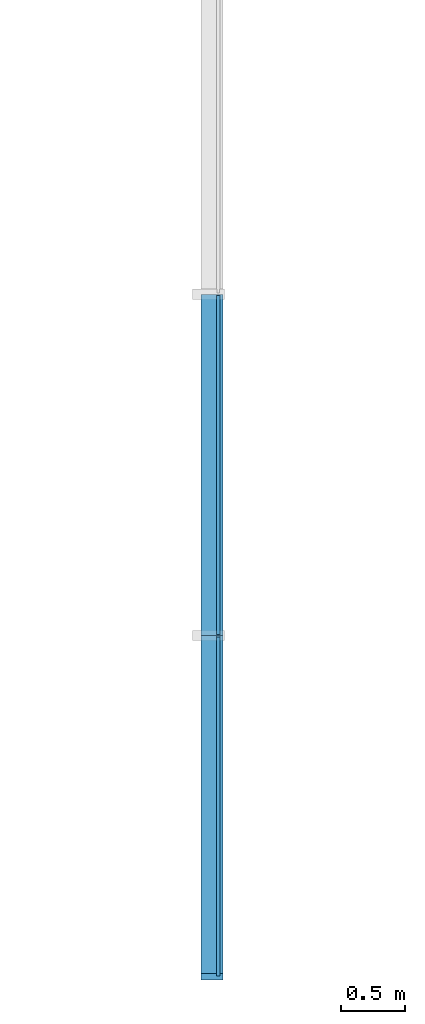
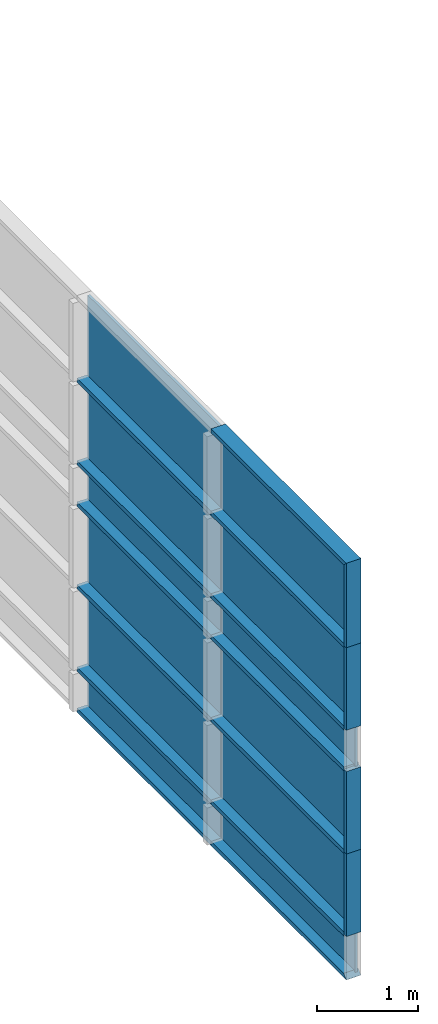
# One storey, part 2 of 19: 29 building element parts, 1 element without a shape of its own.
"""IFC4 building model written with IfcOpenShell, lengths in millimetres."""

from ifc_helpers import new_model, entity, si_unit, converted_unit, derived_unit, direction, frame, origin_with_axes, place, context, subcontext, project, spatial, triangles, material, element, aggregate, save


model = new_model("IFC4")

# Units and contexts
model_context = context("Model", 3, precision=1e-05, world=origin_with_axes(), true_north=direction((0.0, 1.0)))
body_context = subcontext(model_context, "Body", "Model", "MODEL_VIEW")
ifc_project = project(units=[si_unit("LENGTHUNIT", "METRE", prefix="MILLI"), si_unit("AREAUNIT", "SQUARE_METRE"), si_unit("VOLUMEUNIT", "CUBIC_METRE"), converted_unit("PLANEANGLEUNIT", "DEGREE", entity("IfcLengthMeasure", 0.017453), si_unit("PLANEANGLEUNIT", "RADIAN"), dimensions=[0, 0, 0, 0, 0, 0, 0]), si_unit("SOLIDANGLEUNIT", "STERADIAN"), si_unit("MASSUNIT", "GRAM"), si_unit("TIMEUNIT", "SECOND"), si_unit("THERMODYNAMICTEMPERATUREUNIT", "DEGREE_CELSIUS"), si_unit("LUMINOUSINTENSITYUNIT", "LUMEN"), si_unit("POWERUNIT", "WATT"), derived_unit("THERMALTRANSMITTANCEUNIT", [(si_unit("POWERUNIT", "WATT"), 1), (si_unit("THERMODYNAMICTEMPERATUREUNIT", "KELVIN"), -1), (si_unit("AREAUNIT", "SQUARE_METRE"), -1)])], contexts=[model_context])

# Site, building, storey
site_placement = place(None, origin_with_axes())
site = spatial("IfcSite", under=ifc_project, at=site_placement, Name="Default Site", CompositionType="ELEMENT")
building_placement = place(site_placement, origin_with_axes())
building = spatial("IfcBuilding", under=site, at=building_placement, Name="Default Building", CompositionType="ELEMENT")
storey_placement = place(building_placement, frame((0.0, 0.0, 3000.0), z_axis=(0.0, 0.0, 1.0), x_axis=(1.0, 0.0, 0.0)))
storey = spatial("IfcBuildingStorey", under=building, at=storey_placement, Name="EG - Story", CompositionType="ELEMENT", Elevation=3000.0)

# Curtain wall, building element parts
curtain_wall_placement = place(storey_placement, origin_with_axes())
curtain_wall = element("IfcCurtainWall", 1, at=curtain_wall_placement, inside=storey, Name="Fassade-013", PredefinedType="NOTDEFINED")
ifc_material_1 = material(Name="Normalglas")
building_element_part_1_placement = place(curtain_wall_placement, frame((51421.391327, -49908.012838, 0.0), z_axis=(0.0, 0.0, 1.0), x_axis=(1.0, 0.0, 0.0)))
building_element_part_1 = element("IfcBuildingElementPart", 2, at=building_element_part_1_placement, material=ifc_material_1, Name="Normalglas", PredefinedType="NOTDEFINED", context=body_context, shape_type="Tessellation", body=[
    triangles([(-14.999, 1321.25, 495.0), (-14.999, -1326.249, 495.0), (15.0, -1326.249, 495.0), (15.0, 1321.25, 495.0), (-14.999, 1321.25, 5.0), (-14.999, -1326.249, 5.0), (15.0, -1326.249, 5.0), (15.0, 1321.25, 5.0)], [[1, 2, 3], [1, 3, 4], [1, 5, 6], [1, 6, 2], [2, 6, 7], [2, 7, 3], [4, 3, 7], [4, 7, 8], [5, 1, 4], [5, 4, 8], [6, 5, 8], [6, 8, 7]], closed=False),
])
building_element_part_2_placement = place(curtain_wall_placement, frame((51421.391327, -49908.012838, 0.0), z_axis=(0.0, 0.0, 1.0), x_axis=(1.0, 0.0, 0.0)))
building_element_part_2 = element("IfcBuildingElementPart", 3, at=building_element_part_2_placement, material=ifc_material_1, Name="Normalglas", PredefinedType="NOTDEFINED", context=body_context, shape_type="Tessellation", body=[
    triangles([(-14.999, 3983.75, 495.0), (-14.999, 1341.25, 495.0), (15.0, 1341.25, 495.0), (15.0, 3983.75, 495.0), (-14.999, 3983.75, 5.0), (-14.999, 1341.25, 5.0), (15.0, 1341.25, 5.0), (15.0, 3983.75, 5.0)], [[1, 2, 3], [1, 3, 4], [1, 5, 6], [1, 6, 2], [2, 6, 7], [2, 7, 3], [4, 3, 7], [4, 7, 8], [5, 1, 4], [5, 4, 8], [6, 5, 8], [6, 8, 7]], closed=False),
])
building_element_part_3_placement = place(curtain_wall_placement, frame((51421.391327, -49908.012838, 0.0), z_axis=(0.0, 0.0, 1.0), x_axis=(1.0, 0.0, 0.0)))
building_element_part_3 = element("IfcBuildingElementPart", 4, at=building_element_part_3_placement, material=ifc_material_1, Name="Normalglas", PredefinedType="NOTDEFINED", context=body_context, shape_type="Tessellation", body=[
    triangles([(-14.999, 1321.25, 1495.0), (-14.999, -1326.249, 1495.0), (15.0, -1326.249, 1495.0), (15.0, 1321.25, 1495.0), (-14.999, 1321.25, 505.0), (-14.999, -1326.249, 505.0), (15.0, -1326.249, 505.0), (15.0, 1321.25, 505.0)], [[1, 2, 3], [1, 3, 4], [1, 5, 6], [1, 6, 2], [2, 6, 7], [2, 7, 3], [4, 3, 7], [4, 7, 8], [5, 1, 4], [5, 4, 8], [6, 5, 8], [6, 8, 7]], closed=False),
])
building_element_part_4_placement = place(curtain_wall_placement, frame((51421.391327, -49908.012838, 0.0), z_axis=(0.0, 0.0, 1.0), x_axis=(1.0, 0.0, 0.0)))
building_element_part_4 = element("IfcBuildingElementPart", 5, at=building_element_part_4_placement, material=ifc_material_1, Name="Normalglas", PredefinedType="NOTDEFINED", context=body_context, shape_type="Tessellation", body=[
    triangles([(-14.999, 3983.75, 1495.0), (-14.999, 1341.25, 1495.0), (15.0, 1341.25, 1495.0), (15.0, 3983.75, 1495.0), (-14.999, 3983.75, 505.0), (-14.999, 1341.25, 505.0), (15.0, 1341.25, 505.0), (15.0, 3983.75, 505.0)], [[1, 2, 3], [1, 3, 4], [1, 5, 6], [1, 6, 2], [2, 6, 7], [2, 7, 3], [4, 3, 7], [4, 7, 8], [5, 1, 4], [5, 4, 8], [6, 5, 8], [6, 8, 7]], closed=False),
])
building_element_part_5_placement = place(curtain_wall_placement, frame((51421.391327, -49908.012838, 0.0), z_axis=(0.0, 0.0, 1.0), x_axis=(1.0, 0.0, 0.0)))
building_element_part_5 = element("IfcBuildingElementPart", 6, at=building_element_part_5_placement, material=ifc_material_1, Name="Normalglas", PredefinedType="NOTDEFINED", context=body_context, shape_type="Tessellation", body=[
    triangles([(-14.999, 1321.25, 2495.0), (-14.999, -1326.249, 2495.0), (15.0, -1326.249, 2495.0), (15.0, 1321.25, 2495.0), (-14.999, 1321.25, 1505.0), (-14.999, -1326.249, 1505.0), (15.0, -1326.249, 1505.0), (15.0, 1321.25, 1505.0)], [[1, 2, 3], [1, 3, 4], [1, 5, 6], [1, 6, 2], [2, 6, 7], [2, 7, 3], [4, 3, 7], [4, 7, 8], [5, 1, 4], [5, 4, 8], [6, 5, 8], [6, 8, 7]], closed=False),
])
building_element_part_6_placement = place(curtain_wall_placement, frame((51421.391327, -49908.012838, 0.0), z_axis=(0.0, 0.0, 1.0), x_axis=(1.0, 0.0, 0.0)))
building_element_part_6 = element("IfcBuildingElementPart", 7, at=building_element_part_6_placement, material=ifc_material_1, Name="Normalglas", PredefinedType="NOTDEFINED", context=body_context, shape_type="Tessellation", body=[
    triangles([(-14.999, 3983.75, 2495.0), (-14.999, 1341.25, 2495.0), (15.0, 1341.25, 2495.0), (15.0, 3983.75, 2495.0), (-14.999, 3983.75, 1505.0), (-14.999, 1341.25, 1505.0), (15.0, 1341.25, 1505.0), (15.0, 3983.75, 1505.0)], [[1, 2, 3], [1, 3, 4], [1, 5, 6], [1, 6, 2], [2, 6, 7], [2, 7, 3], [4, 3, 7], [4, 7, 8], [5, 1, 4], [5, 4, 8], [6, 5, 8], [6, 8, 7]], closed=False),
])
building_element_part_7_placement = place(curtain_wall_placement, frame((51421.391327, -49908.012838, 0.0), z_axis=(0.0, 0.0, 1.0), x_axis=(1.0, 0.0, 0.0)))
building_element_part_7 = element("IfcBuildingElementPart", 8, at=building_element_part_7_placement, material=ifc_material_1, Name="Normalglas", PredefinedType="NOTDEFINED", context=body_context, shape_type="Tessellation", body=[
    triangles([(-14.999, 1321.25, 2995.0), (-14.999, -1326.249, 2995.0), (15.0, -1326.249, 2995.0), (15.0, 1321.25, 2995.0), (-14.999, 1321.25, 2505.0), (-14.999, -1326.249, 2505.0), (15.0, -1326.249, 2505.0), (15.0, 1321.25, 2505.0)], [[1, 2, 3], [1, 3, 4], [1, 5, 6], [1, 6, 2], [2, 6, 7], [2, 7, 3], [4, 3, 7], [4, 7, 8], [5, 1, 4], [5, 4, 8], [6, 5, 8], [6, 8, 7]], closed=False),
])
building_element_part_8_placement = place(curtain_wall_placement, frame((51421.391327, -49908.012838, 0.0), z_axis=(0.0, 0.0, 1.0), x_axis=(1.0, 0.0, 0.0)))
building_element_part_8 = element("IfcBuildingElementPart", 9, at=building_element_part_8_placement, material=ifc_material_1, Name="Normalglas", PredefinedType="NOTDEFINED", context=body_context, shape_type="Tessellation", body=[
    triangles([(-14.999, 3983.75, 2995.0), (-14.999, 1341.25, 2995.0), (15.0, 1341.25, 2995.0), (15.0, 3983.75, 2995.0), (-14.999, 3983.75, 2505.0), (-14.999, 1341.25, 2505.0), (15.0, 1341.25, 2505.0), (15.0, 3983.75, 2505.0)], [[1, 2, 3], [1, 3, 4], [1, 5, 6], [1, 6, 2], [2, 6, 7], [2, 7, 3], [4, 3, 7], [4, 7, 8], [5, 1, 4], [5, 4, 8], [6, 5, 8], [6, 8, 7]], closed=False),
])
building_element_part_9_placement = place(curtain_wall_placement, frame((51421.391327, -49908.012838, 0.0), z_axis=(0.0, 0.0, 1.0), x_axis=(1.0, 0.0, 0.0)))
building_element_part_9 = element("IfcBuildingElementPart", 10, at=building_element_part_9_placement, material=ifc_material_1, Name="Normalglas", PredefinedType="NOTDEFINED", context=body_context, shape_type="Tessellation", body=[
    triangles([(-14.999, 1321.25, 3995.0), (-14.999, -1326.249, 3995.0), (15.0, -1326.249, 3995.0), (15.0, 1321.25, 3995.0), (-14.999, 1321.25, 3005.0), (-14.999, -1326.249, 3005.0), (15.0, -1326.249, 3005.0), (15.0, 1321.25, 3005.0)], [[1, 2, 3], [1, 3, 4], [1, 5, 6], [1, 6, 2], [2, 6, 7], [2, 7, 3], [4, 3, 7], [4, 7, 8], [5, 1, 4], [5, 4, 8], [6, 5, 8], [6, 8, 7]], closed=False),
])
building_element_part_10_placement = place(curtain_wall_placement, frame((51421.391327, -49908.012838, 0.0), z_axis=(0.0, 0.0, 1.0), x_axis=(1.0, 0.0, 0.0)))
building_element_part_10 = element("IfcBuildingElementPart", 11, at=building_element_part_10_placement, material=ifc_material_1, Name="Normalglas", PredefinedType="NOTDEFINED", context=body_context, shape_type="Tessellation", body=[
    triangles([(-14.999, 3983.75, 3995.0), (-14.999, 1341.25, 3995.0), (15.0, 1341.25, 3995.0), (15.0, 3983.75, 3995.0), (-14.999, 3983.75, 3005.0), (-14.999, 1341.25, 3005.0), (15.0, 1341.25, 3005.0), (15.0, 3983.75, 3005.0)], [[1, 2, 3], [1, 3, 4], [1, 5, 6], [1, 6, 2], [2, 6, 7], [2, 7, 3], [4, 3, 7], [4, 7, 8], [5, 1, 4], [5, 4, 8], [6, 5, 8], [6, 8, 7]], closed=False),
])
building_element_part_11_placement = place(curtain_wall_placement, frame((51421.391327, -49908.012838, 0.0), z_axis=(0.0, 0.0, 1.0), x_axis=(1.0, 0.0, 0.0)))
building_element_part_11 = element("IfcBuildingElementPart", 12, at=building_element_part_11_placement, material=ifc_material_1, Name="Normalglas", PredefinedType="NOTDEFINED", context=body_context, shape_type="Tessellation", body=[
    triangles([(-14.999, 1321.25, 4995.0), (-14.999, -1326.249, 4995.0), (15.0, -1326.249, 4995.0), (15.0, 1321.25, 4995.0), (-14.999, 1321.25, 4005.0), (-14.999, -1326.249, 4005.0), (15.0, -1326.249, 4005.0), (15.0, 1321.25, 4005.0)], [[1, 2, 3], [1, 3, 4], [1, 5, 6], [1, 6, 2], [2, 6, 7], [2, 7, 3], [4, 3, 7], [4, 7, 8], [5, 1, 4], [5, 4, 8], [6, 5, 8], [6, 8, 7]], closed=False),
])
building_element_part_12_placement = place(curtain_wall_placement, frame((51421.391327, -49908.012838, 0.0), z_axis=(0.0, 0.0, 1.0), x_axis=(1.0, 0.0, 0.0)))
building_element_part_12 = element("IfcBuildingElementPart", 13, at=building_element_part_12_placement, material=ifc_material_1, Name="Normalglas", PredefinedType="NOTDEFINED", context=body_context, shape_type="Tessellation", body=[
    triangles([(-14.999, 3983.75, 4995.0), (-14.999, 1341.25, 4995.0), (15.0, 1341.25, 4995.0), (15.0, 3983.75, 4995.0), (-14.999, 3983.75, 4005.0), (-14.999, 1341.25, 4005.0), (15.0, 1341.25, 4005.0), (15.0, 3983.75, 4005.0)], [[1, 2, 3], [1, 3, 4], [1, 5, 6], [1, 6, 2], [2, 6, 7], [2, 7, 3], [4, 3, 7], [4, 7, 8], [5, 1, 4], [5, 4, 8], [6, 5, 8], [6, 8, 7]], closed=False),
])
ifc_material_2 = material(Name="Blech")
building_element_part_13_placement = place(curtain_wall_placement, frame((51421.391327, -49908.012838, 0.0), z_axis=(0.0, 0.0, 1.0), x_axis=(1.0, 0.0, 0.0)))
building_element_part_13 = element("IfcBuildingElementPart", 14, at=building_element_part_13_placement, material=ifc_material_2, Name="Blech", PredefinedType="NOTDEFINED", context=body_context, shape_type="Tessellation", body=[
    triangles([(15.0, 1331.25, 5.0), (-14.999, 1331.25, 5.0), (-132.999, 1331.25, -24.999), (35.0, 1331.25, -24.999), (35.0, 1331.25, 25.0), (15.0, 1331.25, 25.0), (-132.999, 1331.25, 25.0), (-14.999, 1331.25, 25.0), (-14.999, -1326.249, 5.0), (15.0, -1326.249, 5.0), (15.0, -1306.249, 25.0), (35.0, -1306.249, 25.0), (35.0, -1356.249, -24.999), (-132.999, -1356.249, -24.999), (-132.999, -1306.249, 25.0), (-14.999, -1306.249, 25.0)], [[1, 2, 3], [1, 3, 4], [1, 4, 5], [1, 5, 6], [7, 3, 2], [7, 2, 8], [1, 2, 9], [1, 9, 10], [11, 6, 1], [11, 1, 10], [6, 11, 12], [6, 12, 5], [4, 5, 12], [4, 12, 13], [3, 4, 13], [3, 13, 14], [7, 3, 14], [7, 14, 15], [16, 8, 7], [16, 7, 15], [2, 8, 16], [2, 16, 9], [16, 15, 9], [9, 15, 14], [9, 14, 10], [10, 14, 13], [10, 13, 12], [10, 12, 11]], closed=False),
])
building_element_part_14_placement = place(curtain_wall_placement, frame((51421.391327, -49908.012838, 0.0), z_axis=(0.0, 0.0, 1.0), x_axis=(1.0, 0.0, 0.0)))
building_element_part_14 = element("IfcBuildingElementPart", 15, at=building_element_part_14_placement, material=ifc_material_2, Name="Blech", PredefinedType="NOTDEFINED", context=body_context, shape_type="Tessellation", body=[
    triangles([(15.0, 3993.75, 5.0), (-14.999, 3993.75, 5.0), (-132.999, 3993.75, -24.999), (35.0, 3993.75, -24.999), (35.0, 3993.75, 25.0), (15.0, 3993.75, 25.0), (-132.999, 3993.75, 25.0), (-14.999, 3993.75, 25.0), (-14.999, 1331.25, 5.0), (15.0, 1331.25, 5.0), (15.0, 1331.25, 25.0), (35.0, 1331.25, 25.0), (35.0, 1331.25, -24.999), (-132.999, 1331.25, -24.999), (-132.999, 1331.25, 25.0), (-14.999, 1331.25, 25.0)], [[1, 2, 3], [1, 3, 4], [1, 4, 5], [1, 5, 6], [7, 3, 2], [7, 2, 8], [1, 2, 9], [1, 9, 10], [11, 6, 1], [11, 1, 10], [6, 11, 12], [6, 12, 5], [13, 4, 5], [13, 5, 12], [14, 3, 4], [14, 4, 13], [15, 7, 3], [15, 3, 14], [16, 8, 7], [16, 7, 15], [2, 8, 16], [2, 16, 9], [16, 15, 9], [9, 15, 14], [9, 14, 10], [10, 14, 13], [10, 13, 12], [10, 12, 11]], closed=False),
])
building_element_part_15_placement = place(curtain_wall_placement, frame((51421.391327, -49908.012838, 0.0), z_axis=(0.0, 0.0, 1.0), x_axis=(1.0, 0.0, 0.0)))
building_element_part_15 = element("IfcBuildingElementPart", 16, at=building_element_part_15_placement, material=ifc_material_2, Name="Blech", PredefinedType="NOTDEFINED", context=body_context, shape_type="Tessellation", body=[
    triangles([(15.0, 1331.25, 525.0), (35.0, 1331.25, 525.0), (15.0, 1331.25, 505.0), (15.0, 1331.25, 495.0), (-14.999, 1331.25, 505.0), (-132.999, 1331.25, 525.0), (-14.999, 1331.25, 525.0), (35.0, 1331.25, 475.0), (15.0, 1331.25, 475.0), (-14.999, 1331.25, 495.0), (-14.999, 1331.25, 475.0), (-132.999, 1331.25, 475.0), (-14.999, -1306.249, 495.0), (-14.999, -1306.249, 475.0), (-132.999, -1306.249, 475.0), (-132.999, -1306.249, 525.0), (-14.999, -1306.249, 525.0), (-14.999, -1306.249, 505.0), (15.0, -1306.249, 505.0), (15.0, -1306.249, 525.0), (35.0, -1306.249, 525.0), (35.0, -1306.249, 475.0), (15.0, -1306.249, 475.0), (15.0, -1306.249, 495.0)], [[1, 2, 3], [3, 2, 4], [3, 4, 5], [5, 4, 6], [5, 6, 7], [8, 9, 4], [8, 4, 2], [6, 4, 10], [6, 10, 11], [6, 11, 12], [11, 10, 13], [11, 13, 14], [11, 14, 15], [11, 15, 12], [12, 15, 16], [12, 16, 6], [7, 6, 16], [7, 16, 17], [7, 17, 18], [7, 18, 5], [5, 18, 19], [5, 19, 3], [1, 3, 19], [1, 19, 20], [20, 21, 2], [20, 2, 1], [2, 21, 22], [2, 22, 8], [23, 9, 8], [23, 8, 22], [4, 9, 23], [4, 23, 24], [10, 4, 24], [10, 24, 13], [17, 16, 18], [18, 16, 13], [18, 13, 19], [19, 13, 24], [19, 24, 21], [21, 24, 23], [21, 23, 22], [15, 14, 13], [15, 13, 16], [19, 21, 20]], closed=False),
])
building_element_part_16_placement = place(curtain_wall_placement, frame((51421.391327, -49908.012838, 0.0), z_axis=(0.0, 0.0, 1.0), x_axis=(1.0, 0.0, 0.0)))
building_element_part_16 = element("IfcBuildingElementPart", 17, at=building_element_part_16_placement, material=ifc_material_2, Name="Blech", PredefinedType="NOTDEFINED", context=body_context, shape_type="Tessellation", body=[
    triangles([(35.0, -1356.249, 1500.0), (35.0, -1306.249, 1500.0), (15.0, -1306.249, 1500.0), (15.0, -1326.249, 1500.0), (-14.999, -1326.249, 1500.0), (-132.999, -1306.249, 1500.0), (-132.999, -1356.249, 1500.0), (-14.999, -1306.249, 1500.0), (-14.999, -1326.249, 500.0), (-14.999, -1306.249, 500.0), (-132.999, -1306.249, 500.0), (-132.999, -1356.249, 500.0), (35.0, -1356.249, 500.0), (35.0, -1306.249, 500.0), (15.0, -1306.249, 500.0), (15.0, -1326.249, 500.0)], [[1, 2, 3], [1, 3, 4], [1, 4, 5], [1, 5, 6], [1, 6, 7], [8, 6, 5], [5, 9, 10], [5, 10, 8], [10, 11, 6], [10, 6, 8], [11, 12, 7], [11, 7, 6], [12, 13, 1], [12, 1, 7], [13, 14, 2], [13, 2, 1], [3, 2, 14], [3, 14, 15], [15, 16, 4], [15, 4, 3], [4, 16, 9], [4, 9, 5], [15, 16, 13], [13, 16, 9], [13, 9, 11], [11, 9, 10], [13, 11, 12], [15, 13, 14]], closed=False),
])
building_element_part_17_placement = place(curtain_wall_placement, frame((51421.391327, -49908.012838, 0.0), z_axis=(0.0, 0.0, 1.0), x_axis=(1.0, 0.0, 0.0)))
building_element_part_17 = element("IfcBuildingElementPart", 18, at=building_element_part_17_placement, material=ifc_material_2, Name="Blech", PredefinedType="NOTDEFINED", context=body_context, shape_type="Tessellation", body=[
    triangles([(15.0, 3993.75, 525.0), (35.0, 3993.75, 525.0), (15.0, 3993.75, 505.0), (15.0, 3993.75, 495.0), (-14.999, 3993.75, 505.0), (-132.999, 3993.75, 525.0), (-14.999, 3993.75, 525.0), (35.0, 3993.75, 475.0), (15.0, 3993.75, 475.0), (-14.999, 3993.75, 495.0), (-14.999, 3993.75, 475.0), (-132.999, 3993.75, 475.0), (-14.999, 1331.25, 495.0), (-14.999, 1331.25, 475.0), (-132.999, 1331.25, 475.0), (-132.999, 1331.25, 525.0), (-14.999, 1331.25, 525.0), (-14.999, 1331.25, 505.0), (15.0, 1331.25, 505.0), (15.0, 1331.25, 525.0), (35.0, 1331.25, 525.0), (35.0, 1331.25, 475.0), (15.0, 1331.25, 475.0), (15.0, 1331.25, 495.0)], [[1, 2, 3], [3, 2, 4], [3, 4, 5], [5, 4, 6], [5, 6, 7], [8, 9, 4], [8, 4, 2], [6, 4, 10], [6, 10, 11], [6, 11, 12], [11, 10, 13], [11, 13, 14], [11, 14, 15], [11, 15, 12], [6, 12, 15], [6, 15, 16], [7, 6, 16], [7, 16, 17], [7, 17, 18], [7, 18, 5], [5, 18, 19], [5, 19, 3], [1, 3, 19], [1, 19, 20], [20, 21, 2], [20, 2, 1], [8, 2, 21], [8, 21, 22], [23, 9, 8], [23, 8, 22], [4, 9, 23], [4, 23, 24], [10, 4, 24], [10, 24, 13], [17, 16, 18], [18, 16, 13], [18, 13, 19], [19, 13, 24], [19, 24, 21], [21, 24, 23], [21, 23, 22], [15, 14, 13], [15, 13, 16], [19, 21, 20]], closed=False),
])
building_element_part_18_placement = place(curtain_wall_placement, frame((51421.391327, -49908.012838, 0.0), z_axis=(0.0, 0.0, 1.0), x_axis=(1.0, 0.0, 0.0)))
building_element_part_18 = element("IfcBuildingElementPart", 19, at=building_element_part_18_placement, material=ifc_material_2, Name="Blech", PredefinedType="NOTDEFINED", context=body_context, shape_type="Tessellation", body=[
    triangles([(15.0, 1331.25, 1525.0), (35.0, 1331.25, 1525.0), (15.0, 1331.25, 1505.0), (15.0, 1331.25, 1495.0), (-14.999, 1331.25, 1505.0), (-132.999, 1331.25, 1525.0), (-14.999, 1331.25, 1525.0), (35.0, 1331.25, 1475.0), (15.0, 1331.25, 1475.0), (-14.999, 1331.25, 1495.0), (-14.999, 1331.25, 1475.0), (-132.999, 1331.25, 1475.0), (-14.999, -1306.249, 1495.0), (-14.999, -1306.249, 1475.0), (-132.999, -1306.249, 1475.0), (-132.999, -1306.249, 1525.0), (-14.999, -1306.249, 1525.0), (-14.999, -1306.249, 1505.0), (15.0, -1306.249, 1505.0), (15.0, -1306.249, 1525.0), (35.0, -1306.249, 1525.0), (35.0, -1306.249, 1475.0), (15.0, -1306.249, 1475.0), (15.0, -1306.249, 1495.0)], [[1, 2, 3], [3, 2, 4], [3, 4, 5], [5, 4, 6], [5, 6, 7], [8, 9, 4], [8, 4, 2], [6, 4, 10], [6, 10, 11], [6, 11, 12], [11, 10, 13], [11, 13, 14], [11, 14, 15], [11, 15, 12], [12, 15, 16], [12, 16, 6], [7, 6, 16], [7, 16, 17], [7, 17, 18], [7, 18, 5], [5, 18, 19], [5, 19, 3], [1, 3, 19], [1, 19, 20], [20, 21, 2], [20, 2, 1], [2, 21, 22], [2, 22, 8], [23, 9, 8], [23, 8, 22], [4, 9, 23], [4, 23, 24], [10, 4, 24], [10, 24, 13], [17, 16, 18], [18, 16, 13], [18, 13, 19], [19, 13, 24], [19, 24, 21], [21, 24, 23], [21, 23, 22], [15, 14, 13], [15, 13, 16], [19, 21, 20]], closed=False),
])
building_element_part_19_placement = place(curtain_wall_placement, frame((51421.391327, -49908.012838, 0.0), z_axis=(0.0, 0.0, 1.0), x_axis=(1.0, 0.0, 0.0)))
building_element_part_19 = element("IfcBuildingElementPart", 20, at=building_element_part_19_placement, material=ifc_material_2, Name="Blech", PredefinedType="NOTDEFINED", context=body_context, shape_type="Tessellation", body=[
    triangles([(35.0, -1356.249, 2500.0), (35.0, -1306.249, 2500.0), (15.0, -1306.249, 2500.0), (15.0, -1326.249, 2500.0), (-14.999, -1326.249, 2500.0), (-132.999, -1306.249, 2500.0), (-132.999, -1356.249, 2500.0), (-14.999, -1306.249, 2500.0), (-14.999, -1326.249, 1500.0), (-14.999, -1306.249, 1500.0), (-132.999, -1306.249, 1500.0), (-132.999, -1356.249, 1500.0), (35.0, -1356.249, 1500.0), (35.0, -1306.249, 1500.0), (15.0, -1306.249, 1500.0), (15.0, -1326.249, 1500.0)], [[1, 2, 3], [1, 3, 4], [1, 4, 5], [1, 5, 6], [1, 6, 7], [8, 6, 5], [5, 9, 10], [5, 10, 8], [10, 11, 6], [10, 6, 8], [11, 12, 7], [11, 7, 6], [12, 13, 1], [12, 1, 7], [13, 14, 2], [13, 2, 1], [3, 2, 14], [3, 14, 15], [15, 16, 4], [15, 4, 3], [4, 16, 9], [4, 9, 5], [15, 16, 13], [13, 16, 9], [13, 9, 11], [11, 9, 10], [13, 11, 12], [15, 13, 14]], closed=False),
])
building_element_part_20_placement = place(curtain_wall_placement, frame((51421.391327, -49908.012838, 0.0), z_axis=(0.0, 0.0, 1.0), x_axis=(1.0, 0.0, 0.0)))
building_element_part_20 = element("IfcBuildingElementPart", 21, at=building_element_part_20_placement, material=ifc_material_2, Name="Blech", PredefinedType="NOTDEFINED", context=body_context, shape_type="Tessellation", body=[
    triangles([(15.0, 3993.75, 1525.0), (35.0, 3993.75, 1525.0), (15.0, 3993.75, 1505.0), (15.0, 3993.75, 1495.0), (-14.999, 3993.75, 1505.0), (-132.999, 3993.75, 1525.0), (-14.999, 3993.75, 1525.0), (35.0, 3993.75, 1475.0), (15.0, 3993.75, 1475.0), (-14.999, 3993.75, 1495.0), (-14.999, 3993.75, 1475.0), (-132.999, 3993.75, 1475.0), (-14.999, 1331.25, 1495.0), (-14.999, 1331.25, 1475.0), (-132.999, 1331.25, 1475.0), (-132.999, 1331.25, 1525.0), (-14.999, 1331.25, 1525.0), (-14.999, 1331.25, 1505.0), (15.0, 1331.25, 1505.0), (15.0, 1331.25, 1525.0), (35.0, 1331.25, 1525.0), (35.0, 1331.25, 1475.0), (15.0, 1331.25, 1475.0), (15.0, 1331.25, 1495.0)], [[1, 2, 3], [3, 2, 4], [3, 4, 5], [5, 4, 6], [5, 6, 7], [8, 9, 4], [8, 4, 2], [6, 4, 10], [6, 10, 11], [6, 11, 12], [11, 10, 13], [11, 13, 14], [11, 14, 15], [11, 15, 12], [6, 12, 15], [6, 15, 16], [7, 6, 16], [7, 16, 17], [7, 17, 18], [7, 18, 5], [5, 18, 19], [5, 19, 3], [1, 3, 19], [1, 19, 20], [20, 21, 2], [20, 2, 1], [8, 2, 21], [8, 21, 22], [23, 9, 8], [23, 8, 22], [4, 9, 23], [4, 23, 24], [10, 4, 24], [10, 24, 13], [17, 16, 18], [18, 16, 13], [18, 13, 19], [19, 13, 24], [19, 24, 21], [21, 24, 23], [21, 23, 22], [15, 14, 13], [15, 13, 16], [19, 21, 20]], closed=False),
])
building_element_part_21_placement = place(curtain_wall_placement, frame((51421.391327, -49908.012838, 0.0), z_axis=(0.0, 0.0, 1.0), x_axis=(1.0, 0.0, 0.0)))
building_element_part_21 = element("IfcBuildingElementPart", 22, at=building_element_part_21_placement, material=ifc_material_2, Name="Blech", PredefinedType="NOTDEFINED", context=body_context, shape_type="Tessellation", body=[
    triangles([(15.0, 1331.25, 2525.0), (35.0, 1331.25, 2525.0), (15.0, 1331.25, 2505.0), (15.0, 1331.25, 2495.0), (-14.999, 1331.25, 2505.0), (-132.999, 1331.25, 2525.0), (-14.999, 1331.25, 2525.0), (35.0, 1331.25, 2475.0), (15.0, 1331.25, 2475.0), (-14.999, 1331.25, 2495.0), (-14.999, 1331.25, 2475.0), (-132.999, 1331.25, 2475.0), (-14.999, -1306.249, 2495.0), (-14.999, -1306.249, 2475.0), (-132.999, -1306.249, 2475.0), (-132.999, -1306.249, 2525.0), (-14.999, -1306.249, 2525.0), (-14.999, -1306.249, 2505.0), (15.0, -1306.249, 2505.0), (15.0, -1306.249, 2525.0), (35.0, -1306.249, 2525.0), (35.0, -1306.249, 2475.0), (15.0, -1306.249, 2475.0), (15.0, -1306.249, 2495.0)], [[1, 2, 3], [3, 2, 4], [3, 4, 5], [5, 4, 6], [5, 6, 7], [8, 9, 4], [8, 4, 2], [6, 4, 10], [6, 10, 11], [6, 11, 12], [11, 10, 13], [11, 13, 14], [11, 14, 15], [11, 15, 12], [12, 15, 16], [12, 16, 6], [7, 6, 16], [7, 16, 17], [7, 17, 18], [7, 18, 5], [5, 18, 19], [5, 19, 3], [1, 3, 19], [1, 19, 20], [20, 21, 2], [20, 2, 1], [2, 21, 22], [2, 22, 8], [23, 9, 8], [23, 8, 22], [4, 9, 23], [4, 23, 24], [10, 4, 24], [10, 24, 13], [17, 16, 18], [18, 16, 13], [18, 13, 19], [19, 13, 24], [19, 24, 21], [21, 24, 23], [21, 23, 22], [15, 14, 13], [15, 13, 16], [19, 21, 20]], closed=False),
])
building_element_part_22_placement = place(curtain_wall_placement, frame((51421.391327, -49908.012838, 0.0), z_axis=(0.0, 0.0, 1.0), x_axis=(1.0, 0.0, 0.0)))
building_element_part_22 = element("IfcBuildingElementPart", 23, at=building_element_part_22_placement, material=ifc_material_2, Name="Blech", PredefinedType="NOTDEFINED", context=body_context, shape_type="Tessellation", body=[
    triangles([(15.0, 3993.75, 2525.0), (35.0, 3993.75, 2525.0), (15.0, 3993.75, 2505.0), (15.0, 3993.75, 2495.0), (-14.999, 3993.75, 2505.0), (-132.999, 3993.75, 2525.0), (-14.999, 3993.75, 2525.0), (35.0, 3993.75, 2475.0), (15.0, 3993.75, 2475.0), (-14.999, 3993.75, 2495.0), (-14.999, 3993.75, 2475.0), (-132.999, 3993.75, 2475.0), (-14.999, 1331.25, 2495.0), (-14.999, 1331.25, 2475.0), (-132.999, 1331.25, 2475.0), (-132.999, 1331.25, 2525.0), (-14.999, 1331.25, 2525.0), (-14.999, 1331.25, 2505.0), (15.0, 1331.25, 2505.0), (15.0, 1331.25, 2525.0), (35.0, 1331.25, 2525.0), (35.0, 1331.25, 2475.0), (15.0, 1331.25, 2475.0), (15.0, 1331.25, 2495.0)], [[1, 2, 3], [3, 2, 4], [3, 4, 5], [5, 4, 6], [5, 6, 7], [8, 9, 4], [8, 4, 2], [6, 4, 10], [6, 10, 11], [6, 11, 12], [11, 10, 13], [11, 13, 14], [11, 14, 15], [11, 15, 12], [6, 12, 15], [6, 15, 16], [7, 6, 16], [7, 16, 17], [7, 17, 18], [7, 18, 5], [5, 18, 19], [5, 19, 3], [1, 3, 19], [1, 19, 20], [20, 21, 2], [20, 2, 1], [8, 2, 21], [8, 21, 22], [23, 9, 8], [23, 8, 22], [4, 9, 23], [4, 23, 24], [10, 4, 24], [10, 24, 13], [17, 16, 18], [18, 16, 13], [18, 13, 19], [19, 13, 24], [19, 24, 21], [21, 24, 23], [21, 23, 22], [15, 14, 13], [15, 13, 16], [19, 21, 20]], closed=False),
])
building_element_part_23_placement = place(curtain_wall_placement, frame((51421.391327, -49908.012838, 0.0), z_axis=(0.0, 0.0, 1.0), x_axis=(1.0, 0.0, 0.0)))
building_element_part_23 = element("IfcBuildingElementPart", 24, at=building_element_part_23_placement, material=ifc_material_2, Name="Blech", PredefinedType="NOTDEFINED", context=body_context, shape_type="Tessellation", body=[
    triangles([(15.0, 1331.25, 3025.0), (35.0, 1331.25, 3025.0), (15.0, 1331.25, 3005.0), (15.0, 1331.25, 2995.0), (-14.999, 1331.25, 3005.0), (-132.999, 1331.25, 3025.0), (-14.999, 1331.25, 3025.0), (35.0, 1331.25, 2975.0), (15.0, 1331.25, 2975.0), (-14.999, 1331.25, 2995.0), (-14.999, 1331.25, 2975.0), (-132.999, 1331.25, 2975.0), (-14.999, -1306.249, 2995.0), (-14.999, -1306.249, 2975.0), (-132.999, -1306.249, 2975.0), (-132.999, -1306.249, 3025.0), (-14.999, -1306.249, 3025.0), (-14.999, -1306.249, 3005.0), (15.0, -1306.249, 3005.0), (15.0, -1306.249, 3025.0), (35.0, -1306.249, 3025.0), (35.0, -1306.249, 2975.0), (15.0, -1306.249, 2975.0), (15.0, -1306.249, 2995.0)], [[1, 2, 3], [3, 2, 4], [3, 4, 5], [5, 4, 6], [5, 6, 7], [8, 9, 4], [8, 4, 2], [6, 4, 10], [6, 10, 11], [6, 11, 12], [11, 10, 13], [11, 13, 14], [11, 14, 15], [11, 15, 12], [12, 15, 16], [12, 16, 6], [7, 6, 16], [7, 16, 17], [7, 17, 18], [7, 18, 5], [5, 18, 19], [5, 19, 3], [1, 3, 19], [1, 19, 20], [20, 21, 2], [20, 2, 1], [2, 21, 22], [2, 22, 8], [23, 9, 8], [23, 8, 22], [4, 9, 23], [4, 23, 24], [10, 4, 24], [10, 24, 13], [17, 16, 18], [18, 16, 13], [18, 13, 19], [19, 13, 24], [19, 24, 21], [21, 24, 23], [21, 23, 22], [15, 14, 13], [15, 13, 16], [19, 21, 20]], closed=False),
])
building_element_part_24_placement = place(curtain_wall_placement, frame((51421.391327, -49908.012838, 0.0), z_axis=(0.0, 0.0, 1.0), x_axis=(1.0, 0.0, 0.0)))
building_element_part_24 = element("IfcBuildingElementPart", 25, at=building_element_part_24_placement, material=ifc_material_2, Name="Blech", PredefinedType="NOTDEFINED", context=body_context, shape_type="Tessellation", body=[
    triangles([(35.0, -1356.249, 4000.0), (35.0, -1306.249, 4000.0), (15.0, -1306.249, 4000.0), (15.0, -1326.249, 4000.0), (-14.999, -1326.249, 4000.0), (-132.999, -1306.249, 4000.0), (-132.999, -1356.249, 4000.0), (-14.999, -1306.249, 4000.0), (-14.999, -1326.249, 3000.0), (-14.999, -1306.249, 3000.0), (-132.999, -1306.249, 3000.0), (-132.999, -1356.249, 3000.0), (35.0, -1356.249, 3000.0), (35.0, -1306.249, 3000.0), (15.0, -1306.249, 3000.0), (15.0, -1326.249, 3000.0)], [[1, 2, 3], [1, 3, 4], [1, 4, 5], [1, 5, 6], [1, 6, 7], [8, 6, 5], [5, 9, 10], [5, 10, 8], [10, 11, 6], [10, 6, 8], [11, 12, 7], [11, 7, 6], [12, 13, 1], [12, 1, 7], [13, 14, 2], [13, 2, 1], [3, 2, 14], [3, 14, 15], [15, 16, 4], [15, 4, 3], [4, 16, 9], [4, 9, 5], [15, 16, 13], [13, 16, 9], [13, 9, 11], [11, 9, 10], [13, 11, 12], [15, 13, 14]], closed=False),
])
building_element_part_25_placement = place(curtain_wall_placement, frame((51421.391327, -49908.012838, 0.0), z_axis=(0.0, 0.0, 1.0), x_axis=(1.0, 0.0, 0.0)))
building_element_part_25 = element("IfcBuildingElementPart", 26, at=building_element_part_25_placement, material=ifc_material_2, Name="Blech", PredefinedType="NOTDEFINED", context=body_context, shape_type="Tessellation", body=[
    triangles([(15.0, 3993.75, 3025.0), (35.0, 3993.75, 3025.0), (15.0, 3993.75, 3005.0), (15.0, 3993.75, 2995.0), (-14.999, 3993.75, 3005.0), (-132.999, 3993.75, 3025.0), (-14.999, 3993.75, 3025.0), (35.0, 3993.75, 2975.0), (15.0, 3993.75, 2975.0), (-14.999, 3993.75, 2995.0), (-14.999, 3993.75, 2975.0), (-132.999, 3993.75, 2975.0), (-14.999, 1331.25, 2995.0), (-14.999, 1331.25, 2975.0), (-132.999, 1331.25, 2975.0), (-132.999, 1331.25, 3025.0), (-14.999, 1331.25, 3025.0), (-14.999, 1331.25, 3005.0), (15.0, 1331.25, 3005.0), (15.0, 1331.25, 3025.0), (35.0, 1331.25, 3025.0), (35.0, 1331.25, 2975.0), (15.0, 1331.25, 2975.0), (15.0, 1331.25, 2995.0)], [[1, 2, 3], [3, 2, 4], [3, 4, 5], [5, 4, 6], [5, 6, 7], [8, 9, 4], [8, 4, 2], [6, 4, 10], [6, 10, 11], [6, 11, 12], [11, 10, 13], [11, 13, 14], [11, 14, 15], [11, 15, 12], [6, 12, 15], [6, 15, 16], [7, 6, 16], [7, 16, 17], [7, 17, 18], [7, 18, 5], [5, 18, 19], [5, 19, 3], [1, 3, 19], [1, 19, 20], [20, 21, 2], [20, 2, 1], [8, 2, 21], [8, 21, 22], [23, 9, 8], [23, 8, 22], [4, 9, 23], [4, 23, 24], [10, 4, 24], [10, 24, 13], [17, 16, 18], [18, 16, 13], [18, 13, 19], [19, 13, 24], [19, 24, 21], [21, 24, 23], [21, 23, 22], [15, 14, 13], [15, 13, 16], [19, 21, 20]], closed=False),
])
building_element_part_26_placement = place(curtain_wall_placement, frame((51421.391327, -49908.012838, 0.0), z_axis=(0.0, 0.0, 1.0), x_axis=(1.0, 0.0, 0.0)))
building_element_part_26 = element("IfcBuildingElementPart", 27, at=building_element_part_26_placement, material=ifc_material_2, Name="Blech", PredefinedType="NOTDEFINED", context=body_context, shape_type="Tessellation", body=[
    triangles([(15.0, 1331.25, 4025.0), (35.0, 1331.25, 4025.0), (15.0, 1331.25, 4005.0), (15.0, 1331.25, 3995.0), (-14.999, 1331.25, 4005.0), (-132.999, 1331.25, 4025.0), (-14.999, 1331.25, 4025.0), (35.0, 1331.25, 3975.0), (15.0, 1331.25, 3975.0), (-14.999, 1331.25, 3995.0), (-14.999, 1331.25, 3975.0), (-132.999, 1331.25, 3975.0), (-14.999, -1306.249, 3995.0), (-14.999, -1306.249, 3975.0), (-132.999, -1306.249, 3975.0), (-132.999, -1306.249, 4025.0), (-14.999, -1306.249, 4025.0), (-14.999, -1306.249, 4005.0), (15.0, -1306.249, 4005.0), (15.0, -1306.249, 4025.0), (35.0, -1306.249, 4025.0), (35.0, -1306.249, 3975.0), (15.0, -1306.249, 3975.0), (15.0, -1306.249, 3995.0)], [[1, 2, 3], [3, 2, 4], [3, 4, 5], [5, 4, 6], [5, 6, 7], [8, 9, 4], [8, 4, 2], [6, 4, 10], [6, 10, 11], [6, 11, 12], [11, 10, 13], [11, 13, 14], [11, 14, 15], [11, 15, 12], [12, 15, 16], [12, 16, 6], [7, 6, 16], [7, 16, 17], [7, 17, 18], [7, 18, 5], [5, 18, 19], [5, 19, 3], [1, 3, 19], [1, 19, 20], [20, 21, 2], [20, 2, 1], [2, 21, 22], [2, 22, 8], [23, 9, 8], [23, 8, 22], [4, 9, 23], [4, 23, 24], [10, 4, 24], [10, 24, 13], [17, 16, 18], [18, 16, 13], [18, 13, 19], [19, 13, 24], [19, 24, 21], [21, 24, 23], [21, 23, 22], [15, 14, 13], [15, 13, 16], [19, 21, 20]], closed=False),
])
building_element_part_27_placement = place(curtain_wall_placement, frame((51421.391327, -49908.012838, 0.0), z_axis=(0.0, 0.0, 1.0), x_axis=(1.0, 0.0, 0.0)))
building_element_part_27 = element("IfcBuildingElementPart", 28, at=building_element_part_27_placement, material=ifc_material_2, Name="Blech", PredefinedType="NOTDEFINED", context=body_context, shape_type="Tessellation", body=[
    triangles([(15.0, 1331.25, 4995.0), (-14.999, 1331.25, 4995.0), (-132.999, 1331.25, 5025.0), (35.0, 1331.25, 5025.0), (35.0, 1331.25, 4975.0), (15.0, 1331.25, 4975.0), (-14.999, 1331.25, 4975.0), (-132.999, 1331.25, 4975.0), (-14.999, -1326.249, 4995.0), (-14.999, -1306.249, 4975.0), (-132.999, -1306.249, 4975.0), (-132.999, -1356.249, 5025.0), (35.0, -1356.249, 5025.0), (35.0, -1306.249, 4975.0), (15.0, -1306.249, 4975.0), (15.0, -1326.249, 4995.0)], [[1, 2, 3], [1, 3, 4], [1, 4, 5], [1, 5, 6], [7, 8, 3], [7, 3, 2], [2, 9, 10], [2, 10, 7], [10, 11, 8], [10, 8, 7], [8, 11, 12], [8, 12, 3], [3, 12, 13], [3, 13, 4], [4, 13, 14], [4, 14, 5], [6, 5, 14], [6, 14, 15], [15, 16, 1], [15, 1, 6], [1, 16, 9], [1, 9, 2], [16, 9, 12], [16, 12, 13], [16, 13, 14], [16, 14, 15], [10, 11, 12], [10, 12, 9]], closed=False),
])
building_element_part_28_placement = place(curtain_wall_placement, frame((51421.391327, -49908.012838, 0.0), z_axis=(0.0, 0.0, 1.0), x_axis=(1.0, 0.0, 0.0)))
building_element_part_28 = element("IfcBuildingElementPart", 29, at=building_element_part_28_placement, material=ifc_material_2, Name="Blech", PredefinedType="NOTDEFINED", context=body_context, shape_type="Tessellation", body=[
    triangles([(15.0, -1326.249, 4995.0), (-14.999, -1326.249, 4995.0), (-132.999, -1356.249, 5025.0), (35.0, -1356.249, 5025.0), (35.0, -1306.249, 4975.0), (15.0, -1306.249, 4975.0), (-14.999, -1306.249, 4975.0), (-132.999, -1306.249, 4975.0), (-14.999, -1326.249, 4000.0), (-14.999, -1306.249, 4000.0), (-132.999, -1306.249, 4000.0), (-132.999, -1356.249, 4000.0), (35.0, -1356.249, 4000.0), (35.0, -1306.249, 4000.0), (15.0, -1306.249, 4000.0), (15.0, -1326.249, 4000.0)], [[1, 2, 3], [1, 3, 4], [1, 4, 5], [1, 5, 6], [7, 8, 3], [7, 3, 2], [2, 9, 10], [2, 10, 7], [10, 11, 8], [10, 8, 7], [11, 12, 3], [11, 3, 8], [12, 13, 4], [12, 4, 3], [13, 14, 5], [13, 5, 4], [6, 5, 14], [6, 14, 15], [15, 16, 1], [15, 1, 6], [1, 16, 9], [1, 9, 2], [15, 16, 13], [13, 16, 9], [13, 9, 11], [11, 9, 10], [13, 11, 12], [15, 13, 14]], closed=False),
])
building_element_part_29_placement = place(curtain_wall_placement, frame((51421.391327, -49908.012838, 0.0), z_axis=(0.0, 0.0, 1.0), x_axis=(1.0, 0.0, 0.0)))
building_element_part_29 = element("IfcBuildingElementPart", 30, at=building_element_part_29_placement, material=ifc_material_2, Name="Blech", PredefinedType="NOTDEFINED", context=body_context, shape_type="Tessellation", body=[
    triangles([(15.0, 3993.75, 4025.0), (35.0, 3993.75, 4025.0), (15.0, 3993.75, 4005.0), (15.0, 3993.75, 3995.0), (-14.999, 3993.75, 4005.0), (-132.999, 3993.75, 4025.0), (-14.999, 3993.75, 4025.0), (35.0, 3993.75, 3975.0), (15.0, 3993.75, 3975.0), (-14.999, 3993.75, 3995.0), (-14.999, 3993.75, 3975.0), (-132.999, 3993.75, 3975.0), (-14.999, 1331.25, 3995.0), (-14.999, 1331.25, 3975.0), (-132.999, 1331.25, 3975.0), (-132.999, 1331.25, 4025.0), (-14.999, 1331.25, 4025.0), (-14.999, 1331.25, 4005.0), (15.0, 1331.25, 4005.0), (15.0, 1331.25, 4025.0), (35.0, 1331.25, 4025.0), (35.0, 1331.25, 3975.0), (15.0, 1331.25, 3975.0), (15.0, 1331.25, 3995.0)], [[1, 2, 3], [3, 2, 4], [3, 4, 5], [5, 4, 6], [5, 6, 7], [8, 9, 4], [8, 4, 2], [6, 4, 10], [6, 10, 11], [6, 11, 12], [11, 10, 13], [11, 13, 14], [11, 14, 15], [11, 15, 12], [6, 12, 15], [6, 15, 16], [7, 6, 16], [7, 16, 17], [7, 17, 18], [7, 18, 5], [5, 18, 19], [5, 19, 3], [1, 3, 19], [1, 19, 20], [20, 21, 2], [20, 2, 1], [8, 2, 21], [8, 21, 22], [23, 9, 8], [23, 8, 22], [4, 9, 23], [4, 23, 24], [10, 4, 24], [10, 24, 13], [17, 16, 18], [18, 16, 13], [18, 13, 19], [19, 13, 24], [19, 24, 21], [21, 24, 23], [21, 23, 22], [15, 14, 13], [15, 13, 16], [19, 21, 20]], closed=False),
])
aggregate(curtain_wall, [building_element_part_1, building_element_part_2, building_element_part_3, building_element_part_4, building_element_part_5, building_element_part_6, building_element_part_7, building_element_part_8, building_element_part_9, building_element_part_10, building_element_part_11, building_element_part_12, building_element_part_13, building_element_part_14, building_element_part_15, building_element_part_16, building_element_part_17, building_element_part_18, building_element_part_19, building_element_part_20, building_element_part_21, building_element_part_22, building_element_part_23, building_element_part_24, building_element_part_25, building_element_part_26, building_element_part_27, building_element_part_28, building_element_part_29])

save(model, "model.ifc")
